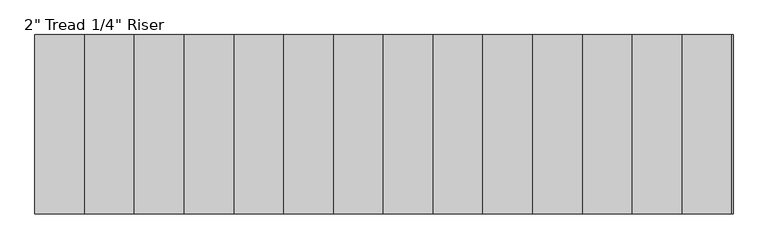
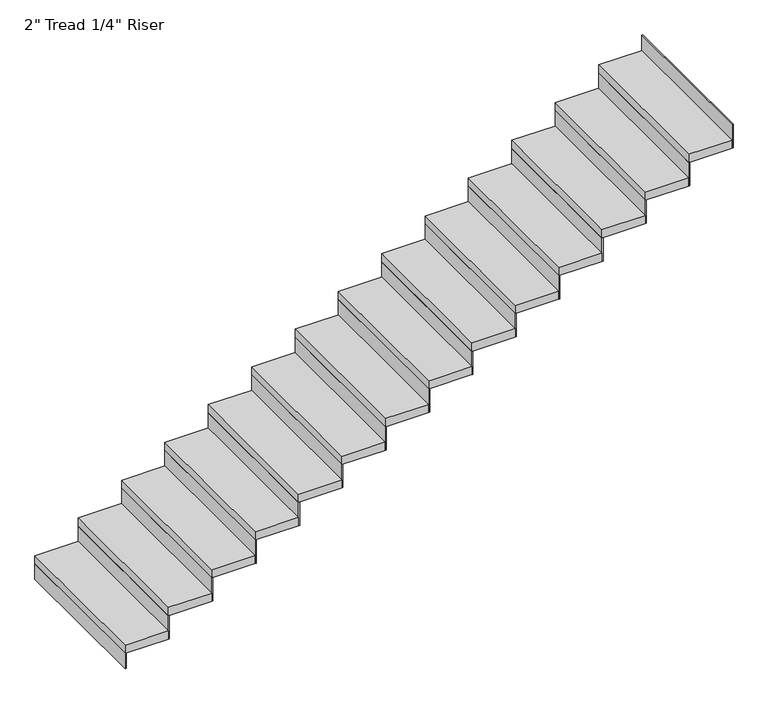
"""IFC4 building model written with IfcOpenShell, lengths in millimetres: stair flight geometry."""

from ifc_helpers import new_model, si_unit, frame, origin, origin_with_axes, place, context, project, spatial, polyline, outline, extrude, source, transform, mapped, element, save


def stair_flight_f2962e83(model_context):
    return source(origin(), model_context, "Body", "SweptSolid", [
        extrude(outline(polyline([(84475.4645262, -18868.6990002), (84469.1145262, -18868.6990002), (84469.1145262, -17954.2990002), (84475.4645262, -17954.2990002), (84475.4645262, -18868.6990002)])), origin_with_axes(), (0.0, 0.0, 1.0), 94.3428571),
        extrude(outline(polyline([(84723.1145262, -17954.2990002), (84723.1145262, -18868.6990002), (84469.1145262, -18868.6990002), (84469.1145262, -17954.2990002), (84723.1145262, -17954.2990002)])), frame((0.0, 0.0, 94.3428571), z_axis=(0.0, 0.0, 1.0), x_axis=(1.0, 0.0, 0.0)), (0.0, 0.0, 1.0), 50.8),
        extrude(outline(polyline([(84729.4645262, -18868.6990002), (84723.1145262, -18868.6990002), (84723.1145262, -17954.2990002), (84729.4645262, -17954.2990002), (84729.4645262, -18868.6990002)])), frame((0.0, 0.0, 94.3428571), z_axis=(0.0, 0.0, 1.0), x_axis=(1.0, 0.0, 0.0)), (0.0, 0.0, 1.0), 145.1428571),
        extrude(outline(polyline([(84977.1145262, -17954.2990002), (84977.1145262, -18868.6990002), (84723.1145262, -18868.6990002), (84723.1145262, -17954.2990002), (84977.1145262, -17954.2990002)])), frame((0.0, 0.0, 239.4857143), z_axis=(0.0, 0.0, 1.0), x_axis=(1.0, 0.0, 0.0)), (0.0, 0.0, 1.0), 50.8),
        extrude(outline(polyline([(84983.4645262, -18868.6990002), (84977.1145262, -18868.6990002), (84977.1145262, -17954.2990002), (84983.4645262, -17954.2990002), (84983.4645262, -18868.6990002)])), frame((0.0, 0.0, 239.4857143), z_axis=(0.0, 0.0, 1.0), x_axis=(1.0, 0.0, 0.0)), (0.0, 0.0, 1.0), 145.1428571),
        extrude(outline(polyline([(85231.1145262, -17954.2990002), (85231.1145262, -18868.6990002), (84977.1145262, -18868.6990002), (84977.1145262, -17954.2990002), (85231.1145262, -17954.2990002)])), frame((0.0, 0.0, 384.6285714), z_axis=(0.0, 0.0, 1.0), x_axis=(1.0, 0.0, 0.0)), (0.0, 0.0, 1.0), 50.8),
        extrude(outline(polyline([(85237.4645262, -18868.6990002), (85231.1145262, -18868.6990002), (85231.1145262, -17954.2990002), (85237.4645262, -17954.2990002), (85237.4645262, -18868.6990002)])), frame((0.0, 0.0, 384.6285714), z_axis=(0.0, 0.0, 1.0), x_axis=(1.0, 0.0, 0.0)), (0.0, 0.0, 1.0), 145.1428571),
        extrude(outline(polyline([(85485.1145262, -17954.2990002), (85485.1145262, -18868.6990002), (85231.1145262, -18868.6990002), (85231.1145262, -17954.2990002), (85485.1145262, -17954.2990002)])), frame((0.0, 0.0, 529.7714286), z_axis=(0.0, 0.0, 1.0), x_axis=(1.0, 0.0, 0.0)), (0.0, 0.0, 1.0), 50.8),
        extrude(outline(polyline([(85491.4645262, -18868.6990002), (85485.1145262, -18868.6990002), (85485.1145262, -17954.2990002), (85491.4645262, -17954.2990002), (85491.4645262, -18868.6990002)])), frame((0.0, 0.0, 529.7714286), z_axis=(0.0, 0.0, 1.0), x_axis=(1.0, 0.0, 0.0)), (0.0, 0.0, 1.0), 145.1428571),
        extrude(outline(polyline([(85739.1145262, -17954.2990002), (85739.1145262, -18868.6990002), (85485.1145262, -18868.6990002), (85485.1145262, -17954.2990002), (85739.1145262, -17954.2990002)])), frame((0.0, 0.0, 674.9142857), z_axis=(0.0, 0.0, 1.0), x_axis=(1.0, 0.0, 0.0)), (0.0, 0.0, 1.0), 50.8),
        extrude(outline(polyline([(85745.4645262, -18868.6990002), (85739.1145262, -18868.6990002), (85739.1145262, -17954.2990002), (85745.4645262, -17954.2990002), (85745.4645262, -18868.6990002)])), frame((0.0, 0.0, 674.9142857), z_axis=(0.0, 0.0, 1.0), x_axis=(1.0, 0.0, 0.0)), (0.0, 0.0, 1.0), 145.1428571),
        extrude(outline(polyline([(85993.1145262, -17954.2990002), (85993.1145262, -18868.6990002), (85739.1145262, -18868.6990002), (85739.1145262, -17954.2990002), (85993.1145262, -17954.2990002)])), frame((0.0, 0.0, 820.0571429), z_axis=(0.0, 0.0, 1.0), x_axis=(1.0, 0.0, 0.0)), (0.0, 0.0, 1.0), 50.8),
        extrude(outline(polyline([(85999.4645262, -18868.6990002), (85993.1145262, -18868.6990002), (85993.1145262, -17954.2990002), (85999.4645262, -17954.2990002), (85999.4645262, -18868.6990002)])), frame((0.0, 0.0, 820.0571429), z_axis=(0.0, 0.0, 1.0), x_axis=(1.0, 0.0, 0.0)), (0.0, 0.0, 1.0), 145.1428571),
        extrude(outline(polyline([(86247.1145262, -17954.2990002), (86247.1145262, -18868.6990002), (85993.1145262, -18868.6990002), (85993.1145262, -17954.2990002), (86247.1145262, -17954.2990002)])), frame((0.0, 0.0, 965.2), z_axis=(0.0, 0.0, 1.0), x_axis=(1.0, 0.0, 0.0)), (0.0, 0.0, 1.0), 50.8),
        extrude(outline(polyline([(86253.4645262, -18868.6990002), (86247.1145262, -18868.6990002), (86247.1145262, -17954.2990002), (86253.4645262, -17954.2990002), (86253.4645262, -18868.6990002)])), frame((0.0, 0.0, 965.2), z_axis=(0.0, 0.0, 1.0), x_axis=(1.0, 0.0, 0.0)), (0.0, 0.0, 1.0), 145.1428571),
        extrude(outline(polyline([(86501.1145262, -17954.2990002), (86501.1145262, -18868.6990002), (86247.1145262, -18868.6990002), (86247.1145262, -17954.2990002), (86501.1145262, -17954.2990002)])), frame((0.0, 0.0, 1110.3428571), z_axis=(0.0, 0.0, 1.0), x_axis=(1.0, 0.0, 0.0)), (0.0, 0.0, 1.0), 50.8),
        extrude(outline(polyline([(86507.4645262, -18868.6990002), (86501.1145262, -18868.6990002), (86501.1145262, -17954.2990002), (86507.4645262, -17954.2990002), (86507.4645262, -18868.6990002)])), frame((0.0, 0.0, 1110.3428571), z_axis=(0.0, 0.0, 1.0), x_axis=(1.0, 0.0, 0.0)), (0.0, 0.0, 1.0), 145.1428571),
        extrude(outline(polyline([(86755.1145262, -17954.2990002), (86755.1145262, -18868.6990002), (86501.1145262, -18868.6990002), (86501.1145262, -17954.2990002), (86755.1145262, -17954.2990002)])), frame((0.0, 0.0, 1255.4857143), z_axis=(0.0, 0.0, 1.0), x_axis=(1.0, 0.0, 0.0)), (0.0, 0.0, 1.0), 50.8),
        extrude(outline(polyline([(86761.4645262, -18868.6990002), (86755.1145262, -18868.6990002), (86755.1145262, -17954.2990002), (86761.4645262, -17954.2990002), (86761.4645262, -18868.6990002)])), frame((0.0, 0.0, 1255.4857143), z_axis=(0.0, 0.0, 1.0), x_axis=(1.0, 0.0, 0.0)), (0.0, 0.0, 1.0), 145.1428571),
        extrude(outline(polyline([(87009.1145262, -17954.2990002), (87009.1145262, -18868.6990002), (86755.1145262, -18868.6990002), (86755.1145262, -17954.2990002), (87009.1145262, -17954.2990002)])), frame((0.0, 0.0, 1400.6285714), z_axis=(0.0, 0.0, 1.0), x_axis=(1.0, 0.0, 0.0)), (0.0, 0.0, 1.0), 50.8),
        extrude(outline(polyline([(87015.4645262, -18868.6990002), (87009.1145262, -18868.6990002), (87009.1145262, -17954.2990002), (87015.4645262, -17954.2990002), (87015.4645262, -18868.6990002)])), frame((0.0, 0.0, 1400.6285714), z_axis=(0.0, 0.0, 1.0), x_axis=(1.0, 0.0, 0.0)), (0.0, 0.0, 1.0), 145.1428571),
        extrude(outline(polyline([(87263.1145262, -17954.2990002), (87263.1145262, -18868.6990002), (87009.1145262, -18868.6990002), (87009.1145262, -17954.2990002), (87263.1145262, -17954.2990002)])), frame((0.0, 0.0, 1545.7714286), z_axis=(0.0, 0.0, 1.0), x_axis=(1.0, 0.0, 0.0)), (0.0, 0.0, 1.0), 50.8),
        extrude(outline(polyline([(87269.4645262, -18868.6990002), (87263.1145262, -18868.6990002), (87263.1145262, -17954.2990002), (87269.4645262, -17954.2990002), (87269.4645262, -18868.6990002)])), frame((0.0, 0.0, 1545.7714286), z_axis=(0.0, 0.0, 1.0), x_axis=(1.0, 0.0, 0.0)), (0.0, 0.0, 1.0), 145.1428571),
        extrude(outline(polyline([(87517.1145262, -17954.2990002), (87517.1145262, -18868.6990002), (87263.1145262, -18868.6990002), (87263.1145262, -17954.2990002), (87517.1145262, -17954.2990002)])), frame((0.0, 0.0, 1690.9142857), z_axis=(0.0, 0.0, 1.0), x_axis=(1.0, 0.0, 0.0)), (0.0, 0.0, 1.0), 50.8),
        extrude(outline(polyline([(87523.4645262, -18868.6990002), (87517.1145262, -18868.6990002), (87517.1145262, -17954.2990002), (87523.4645262, -17954.2990002), (87523.4645262, -18868.6990002)])), frame((0.0, 0.0, 1690.9142857), z_axis=(0.0, 0.0, 1.0), x_axis=(1.0, 0.0, 0.0)), (0.0, 0.0, 1.0), 145.1428571),
        extrude(outline(polyline([(87771.1145262, -17954.2990002), (87771.1145262, -18868.6990002), (87517.1145262, -18868.6990002), (87517.1145262, -17954.2990002), (87771.1145262, -17954.2990002)])), frame((0.0, 0.0, 1836.0571429), z_axis=(0.0, 0.0, 1.0), x_axis=(1.0, 0.0, 0.0)), (0.0, 0.0, 1.0), 50.8),
        extrude(outline(polyline([(87777.4645262, -18868.6990002), (87771.1145262, -18868.6990002), (87771.1145262, -17954.2990002), (87777.4645262, -17954.2990002), (87777.4645262, -18868.6990002)])), frame((0.0, 0.0, 1836.0571429), z_axis=(0.0, 0.0, 1.0), x_axis=(1.0, 0.0, 0.0)), (0.0, 0.0, 1.0), 145.1428571),
        extrude(outline(polyline([(88031.4645262, -18868.6990002), (88025.1145262, -18868.6990002), (88025.1145262, -17954.2990002), (88031.4645262, -17954.2990002), (88031.4645262, -18868.6990002)])), frame((0.0, 0.0, 1981.2), z_axis=(0.0, 0.0, 1.0), x_axis=(1.0, 0.0, 0.0)), (0.0, 0.0, 1.0), 145.1428571),
        extrude(outline(polyline([(88025.1145262, -17954.2990002), (88025.1145262, -18868.6990002), (87771.1145262, -18868.6990002), (87771.1145262, -17954.2990002), (88025.1145262, -17954.2990002)])), frame((0.0, 0.0, 1981.2), z_axis=(0.0, 0.0, 1.0), x_axis=(1.0, 0.0, 0.0)), (0.0, 0.0, 1.0), 50.8),
    ])


if __name__ == "__main__":
    model = new_model("IFC4")
    model_context = context("Model", 3, world=origin())
    ifc_project = project(units=[si_unit("LENGTHUNIT", "METRE", prefix="MILLI")], contexts=[model_context])
    site = spatial("IfcSite", under=ifc_project)
    building = spatial("IfcBuilding", under=site)
    placement = place(None, origin())
    stair_flight_shape = stair_flight_f2962e83(model_context)
    element("IfcStairFlight", 1, ObjectType="2\" Tread 1/4\" Riser", at=placement, inside=building, context=model_context, shape_type="MappedRepresentation", body=[
        mapped(stair_flight_shape, transform((0.0, 0.0, 0.0), x_axis=(1.0, 0.0, 0.0), y_axis=(0.0, 1.0, 0.0), z_axis=(0.0, 0.0, 1.0))),
    ])
    save(model, "model.ifc")
